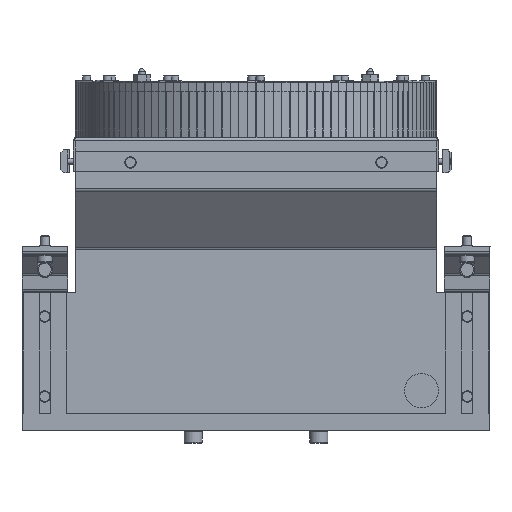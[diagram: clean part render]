
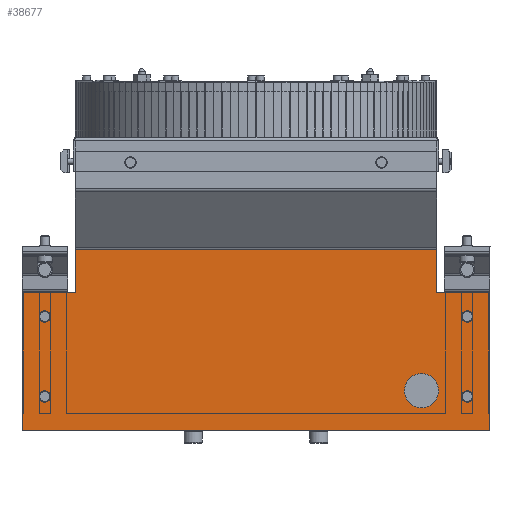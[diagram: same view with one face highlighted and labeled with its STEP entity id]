
A CAD part, front view. The second image highlights one B-rep face of the part: STEP entity #38677.
In plain terms, the highlighted planar face has unit normal (0, -1, 0).
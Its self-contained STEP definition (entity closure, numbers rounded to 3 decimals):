
#1331=FACE_BOUND('',#6075,.T.);
#1332=FACE_BOUND('',#6076,.T.);
#1333=FACE_BOUND('',#6077,.T.);
#1334=FACE_BOUND('',#6078,.T.);
#1335=FACE_BOUND('',#6079,.T.);
#3514=FACE_OUTER_BOUND('',#6074,.T.);
#6074=EDGE_LOOP('',(#31714,#31715,#31716,#31717,#31718,#31719,#31720,#31721));
#6075=EDGE_LOOP('',(#31722));
#6076=EDGE_LOOP('',(#31723));
#6077=EDGE_LOOP('',(#31724));
#6078=EDGE_LOOP('',(#31725));
#6079=EDGE_LOOP('',(#31726));
#6778=LINE('',#53636,#10142);
#6961=LINE('',#54537,#10325);
#6998=LINE('',#54602,#10362);
#9449=LINE('',#67644,#12813);
#9457=LINE('',#67658,#12821);
#9458=LINE('',#67660,#12822);
#9463=LINE('',#67668,#12827);
#9475=LINE('',#67697,#12839);
#10142=VECTOR('',#42900,410.);
#10325=VECTOR('',#43739,121.);
#10362=VECTOR('',#43778,121.);
#12813=VECTOR('',#51539,46.5);
#12821=VECTOR('',#51549,37.899);
#12822=VECTOR('',#51552,46.5);
#12827=VECTOR('',#51559,37.899);
#12839=VECTOR('',#51591,317.);
#14343=CIRCLE('',#42044,15.);
#14352=CIRCLE('',#42069,5.);
#14356=CIRCLE('',#42079,5.);
#14362=CIRCLE('',#42099,5.);
#14367=CIRCLE('',#42110,5.);
#14812=VERTEX_POINT('',#53633);
#14813=VERTEX_POINT('',#53635);
#15083=VERTEX_POINT('',#54536);
#15110=VERTEX_POINT('',#54600);
#17272=VERTEX_POINT('',#67643);
#17274=VERTEX_POINT('',#67651);
#17277=VERTEX_POINT('',#67656);
#17279=VERTEX_POINT('',#67666);
#17302=VERTEX_POINT('',#67745);
#17317=VERTEX_POINT('',#67802);
#17321=VERTEX_POINT('',#67816);
#17331=VERTEX_POINT('',#67858);
#17336=VERTEX_POINT('',#67874);
#17980=EDGE_CURVE('',#14812,#14813,#6778,.T.);
#18326=EDGE_CURVE('',#14813,#15083,#6961,.T.);
#18363=EDGE_CURVE('',#15110,#14812,#6998,.T.);
#22109=EDGE_CURVE('',#17272,#15110,#9449,.T.);
#22117=EDGE_CURVE('',#17277,#17274,#9457,.T.);
#22118=EDGE_CURVE('',#15083,#17277,#9458,.T.);
#22123=EDGE_CURVE('',#17279,#17272,#9463,.T.);
#22139=EDGE_CURVE('',#17279,#17274,#9475,.T.);
#22163=EDGE_CURVE('',#17302,#17302,#14343,.T.);
#22189=EDGE_CURVE('',#17317,#17317,#14352,.T.);
#22193=EDGE_CURVE('',#17321,#17321,#14356,.T.);
#22211=EDGE_CURVE('',#17331,#17331,#14362,.T.);
#22216=EDGE_CURVE('',#17336,#17336,#14367,.T.);
#31714=ORIENTED_EDGE('',*,*,#22139,.T.);
#31715=ORIENTED_EDGE('',*,*,#22117,.F.);
#31716=ORIENTED_EDGE('',*,*,#22118,.F.);
#31717=ORIENTED_EDGE('',*,*,#18326,.F.);
#31718=ORIENTED_EDGE('',*,*,#17980,.F.);
#31719=ORIENTED_EDGE('',*,*,#18363,.F.);
#31720=ORIENTED_EDGE('',*,*,#22109,.F.);
#31721=ORIENTED_EDGE('',*,*,#22123,.F.);
#31722=ORIENTED_EDGE('',*,*,#22211,.T.);
#31723=ORIENTED_EDGE('',*,*,#22189,.T.);
#31724=ORIENTED_EDGE('',*,*,#22163,.T.);
#31725=ORIENTED_EDGE('',*,*,#22193,.T.);
#31726=ORIENTED_EDGE('',*,*,#22216,.T.);
#34241=PLANE('',#42109);
#38677=ADVANCED_FACE('',(#3514,#1331,#1332,#1333,#1334,#1335),#34241,.T.);
#42044=AXIS2_PLACEMENT_3D('',#67746,#51638,#51639);
#42069=AXIS2_PLACEMENT_3D('',#67803,#51705,#51706);
#42079=AXIS2_PLACEMENT_3D('',#67817,#51725,#51726);
#42099=AXIS2_PLACEMENT_3D('',#67859,#51777,#51778);
#42109=AXIS2_PLACEMENT_3D('',#67873,#51797,#51798);
#42110=AXIS2_PLACEMENT_3D('',#67875,#51799,#51800);
#42900=DIRECTION('',(-1.,0.,0.));
#43739=DIRECTION('',(0.,0.,1.));
#43778=DIRECTION('',(0.,0.,-1.));
#51539=DIRECTION('',(1.,0.,0.));
#51549=DIRECTION('',(0.,0.,1.));
#51552=DIRECTION('',(1.,0.,0.));
#51559=DIRECTION('',(0.,0.,-1.));
#51591=DIRECTION('',(-1.,0.,0.));
#51638=DIRECTION('center_axis',(0.,1.,0.));
#51639=DIRECTION('ref_axis',(-1.,0.,0.));
#51705=DIRECTION('center_axis',(0.,1.,0.));
#51706=DIRECTION('ref_axis',(0.5,0.,-0.866));
#51725=DIRECTION('center_axis',(0.,1.,0.));
#51726=DIRECTION('ref_axis',(0.5,0.,-0.866));
#51777=DIRECTION('center_axis',(0.,1.,0.));
#51778=DIRECTION('ref_axis',(0.5,0.,-0.866));
#51797=DIRECTION('center_axis',(0.,-1.,0.));
#51798=DIRECTION('ref_axis',(1.,0.,0.));
#51799=DIRECTION('center_axis',(0.,1.,0.));
#51800=DIRECTION('ref_axis',(0.5,0.,-0.866));
#53633=CARTESIAN_POINT('',(205.,-61.5,0.));
#53635=CARTESIAN_POINT('',(-205.,-61.5,0.));
#53636=CARTESIAN_POINT('',(-205.,-61.5,0.));
#54536=CARTESIAN_POINT('',(-205.,-61.5,121.));
#54537=CARTESIAN_POINT('',(-205.,-61.5,121.));
#54600=CARTESIAN_POINT('',(205.,-61.5,121.));
#54602=CARTESIAN_POINT('',(205.,-61.5,0.));
#67643=CARTESIAN_POINT('',(158.5,-61.5,121.));
#67644=CARTESIAN_POINT('',(205.,-61.5,121.));
#67651=CARTESIAN_POINT('',(-158.5,-61.5,158.899));
#67656=CARTESIAN_POINT('',(-158.5,-61.5,121.));
#67658=CARTESIAN_POINT('',(-158.5,-61.5,161.));
#67660=CARTESIAN_POINT('',(-158.5,-61.5,121.));
#67666=CARTESIAN_POINT('',(158.5,-61.5,158.899));
#67668=CARTESIAN_POINT('',(158.5,-61.5,121.));
#67697=CARTESIAN_POINT('',(79.25,-61.5,158.899));
#67745=CARTESIAN_POINT('',(130.,-61.5,35.));
#67746=CARTESIAN_POINT('Origin',(145.,-61.5,35.));
#67802=CARTESIAN_POINT('',(-182.5,-61.5,95.67));
#67803=CARTESIAN_POINT('Origin',(-185.,-61.5,100.));
#67816=CARTESIAN_POINT('',(187.5,-61.5,95.67));
#67817=CARTESIAN_POINT('Origin',(185.,-61.5,100.));
#67858=CARTESIAN_POINT('',(-182.5,-61.5,25.67));
#67859=CARTESIAN_POINT('Origin',(-185.,-61.5,30.));
#67873=CARTESIAN_POINT('Origin',(0.,-61.5,
77.243));
#67874=CARTESIAN_POINT('',(187.5,-61.5,25.67));
#67875=CARTESIAN_POINT('Origin',(185.,-61.5,30.));
